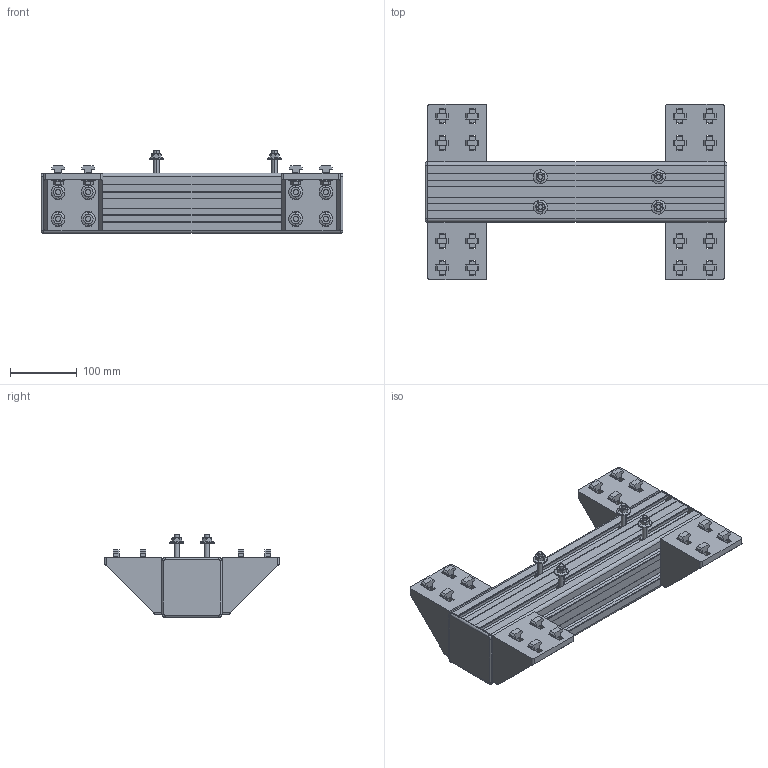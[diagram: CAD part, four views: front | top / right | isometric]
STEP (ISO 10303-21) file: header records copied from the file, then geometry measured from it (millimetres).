
FILE_DESCRIPTION (( 'STEP AP203' ), '1' );
FILE_NAME ('Asutec_75000087.STEP', '2021-11-16T09:21:05', ( '' ), ( '' ), 'SwSTEP 2.0', 'SolidWorks 2020', '' );
FILE_SCHEMA (( 'CONFIG_CONTROL_DESIGN' ));
Length unit declared in the file: millimetre
Products named in the file (1): Asutec_75000087
Bounding box: 450.5 x 262 x 124 mm (x, y, z)
Volume: 3532154.8 mm3; surface area: 661781.7 mm2
Topology: 15 solids, 15 shells, 1630 faces, 4420 edges, 2856 vertices
Faces by surface type: plane 1206, cylinder 300, cone 108, sphere 8, bspline 8
Entity records: 53565 total; most frequent: CARTESIAN_POINT 12811, ORIENTED_EDGE 8840, DIRECTION 7914, EDGE_CURVE 4420, LINE 3132, VECTOR 3132, VERTEX_POINT 2856, AXIS2_PLACEMENT_3D 2391
